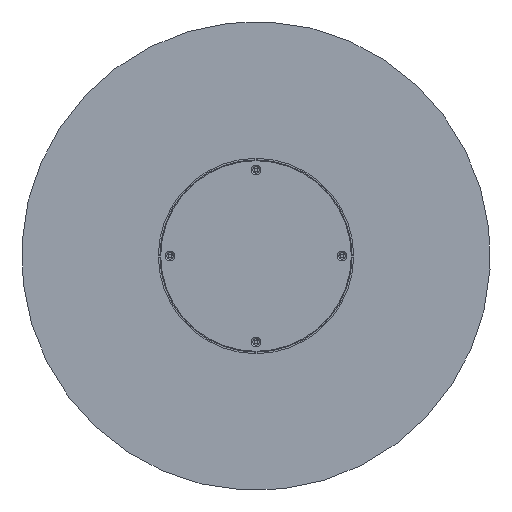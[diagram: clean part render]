
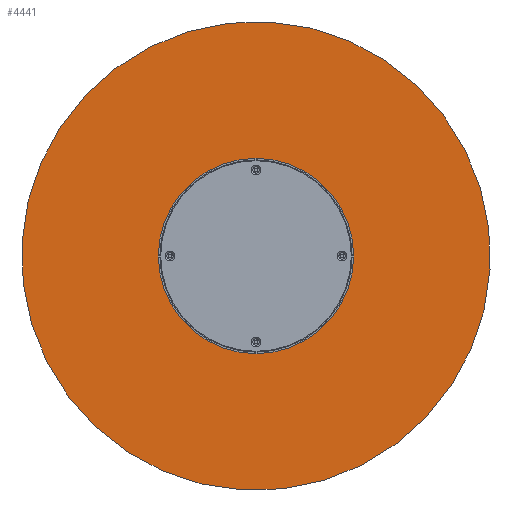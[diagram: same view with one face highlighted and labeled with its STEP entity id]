
A CAD part, front view. The second image highlights one B-rep face of the part: STEP entity #4441.
In plain terms, the highlighted planar face has unit normal (0, -1, 0).
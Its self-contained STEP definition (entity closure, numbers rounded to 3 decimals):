
#51 = DIRECTION ( 'NONE',  ( 0., 0., -1. ) ) ;
#56 = CARTESIAN_POINT ( 'NONE',  ( 0., 0., 300. ) ) ;
#164 = AXIS2_PLACEMENT_3D ( 'NONE', #4660, #2743, #2718 ) ;
#257 = EDGE_LOOP ( 'NONE', ( #3243, #2724 ) ) ;
#265 = CARTESIAN_POINT ( 'NONE',  ( 0., 0., -300. ) ) ;
#475 = CIRCLE ( 'NONE', #164, 300. ) ;
#712 = CIRCLE ( 'NONE', #2450, 300. ) ;
#759 = CARTESIAN_POINT ( 'NONE',  ( 0., 0., 0. ) ) ;
#1240 = PLANE ( 'NONE',  #2894 ) ;
#1533 = CARTESIAN_POINT ( 'NONE',  ( 0., 0., 0. ) ) ;
#1628 = DIRECTION ( 'NONE',  ( 0., -1., 0. ) ) ;
#2450 = AXIS2_PLACEMENT_3D ( 'NONE', #759, #4637, #51 ) ;
#2572 = EDGE_CURVE ( 'NONE', #4698, #3974, #475, .T. ) ;
#2656 = EDGE_CURVE ( 'NONE', #3974, #4698, #712, .T. ) ;
#2718 = DIRECTION ( 'NONE',  ( 0., 0., -1. ) ) ;
#2724 = ORIENTED_EDGE ( 'NONE', *, *, #2656, .T. ) ;
#2743 = DIRECTION ( 'NONE',  ( 0., -1., 0. ) ) ;
#2877 = DIRECTION ( 'NONE',  ( 0., 0., -1. ) ) ;
#2894 = AXIS2_PLACEMENT_3D ( 'NONE', #1533, #1628, #2877 ) ;
#3243 = ORIENTED_EDGE ( 'NONE', *, *, #2572, .T. ) ;
#3974 = VERTEX_POINT ( 'NONE', #56 ) ;
#4441 = ADVANCED_FACE ( 'NONE', ( #4597 ), #1240, .T. ) ;
#4597 = FACE_OUTER_BOUND ( 'NONE', #257, .T. ) ;
#4637 = DIRECTION ( 'NONE',  ( 0., -1., 0. ) ) ;
#4660 = CARTESIAN_POINT ( 'NONE',  ( 0., 0., 0. ) ) ;
#4698 = VERTEX_POINT ( 'NONE', #265 ) ;
